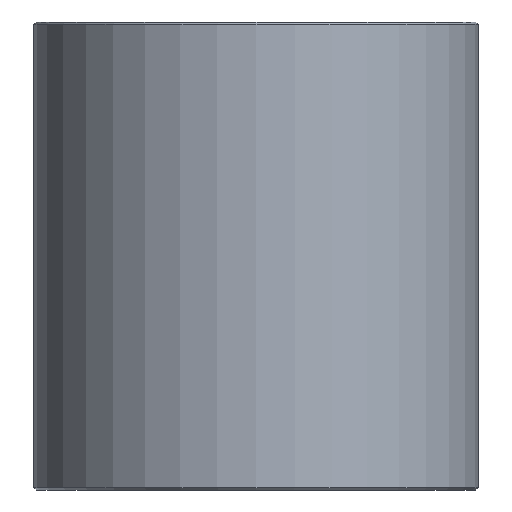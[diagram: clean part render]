
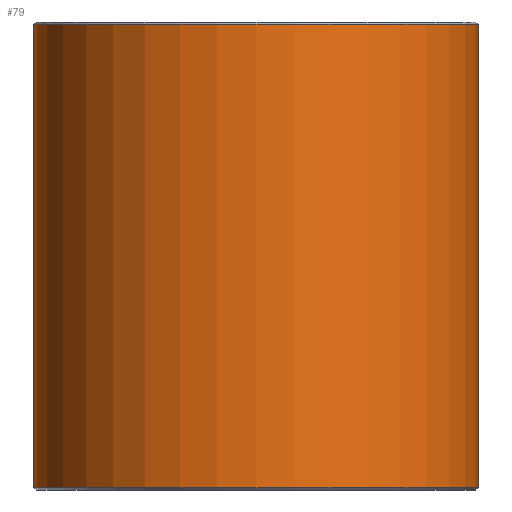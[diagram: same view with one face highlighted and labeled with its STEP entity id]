
A CAD part, front view. The second image highlights one B-rep face of the part: STEP entity #79.
In plain terms, the highlighted cylindrical face has radius 19 mm (diameter 38 mm), a full revolution.
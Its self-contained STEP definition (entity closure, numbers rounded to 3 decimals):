
#79=ADVANCED_FACE('',(#96,#97),#98,.T.);
#96=FACE_OUTER_BOUND('',#120,.T.);
#97=FACE_OUTER_BOUND('',#121,.T.);
#98=CYLINDRICAL_SURFACE('',#122,19.0);
#120=EDGE_LOOP('',(#152));
#121=EDGE_LOOP('',(#153));
#122=AXIS2_PLACEMENT_3D('',#154,#155,#156);
#152=ORIENTED_EDGE('',*,*,#178,.T.);
#153=ORIENTED_EDGE('',*,*,#177,.T.);
#154=CARTESIAN_POINT('',(0.0,0.0,40.0));
#155=DIRECTION('',(0.0,0.0,-1.0));
#156=DIRECTION('',(-1.0,0.0,0.0));
#177=EDGE_CURVE('',#190,#190,#191,.T.);
#178=EDGE_CURVE('',#192,#192,#193,.F.);
#190=VERTEX_POINT('',#206);
#191=CIRCLE('',#207,19.0);
#192=VERTEX_POINT('',#208);
#193=CIRCLE('',#209,19.0);
#206=CARTESIAN_POINT('',(19.0,0.0,0.2));
#207=AXIS2_PLACEMENT_3D('',#227,#228,#229);
#208=CARTESIAN_POINT('',(19.0,0.,39.8));
#209=AXIS2_PLACEMENT_3D('',#230,#231,#232);
#227=CARTESIAN_POINT('',(0.0,0.0,0.2));
#228=DIRECTION('',(0.0,0.0,1.0));
#229=DIRECTION('',(1.0,0.0,0.0));
#230=CARTESIAN_POINT('',(0.0,0.0,39.8));
#231=DIRECTION('',(0.0,0.0,1.0));
#232=DIRECTION('',(1.0,0.0,0.0));
